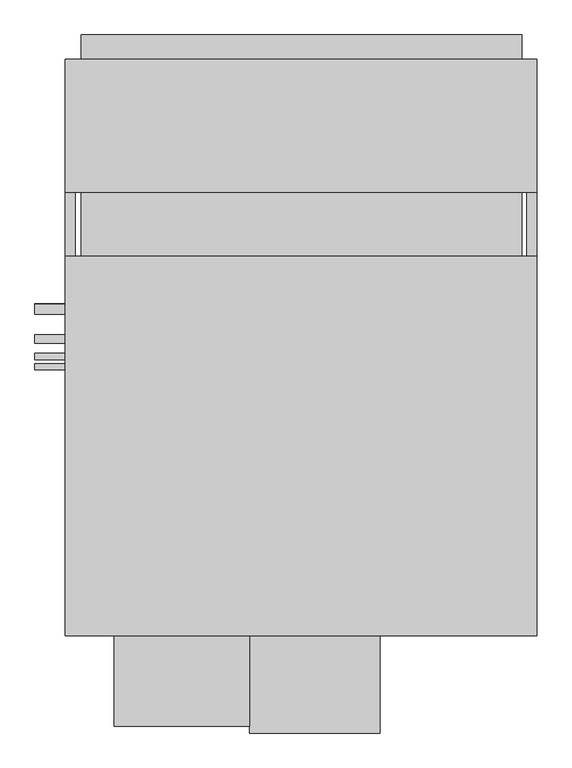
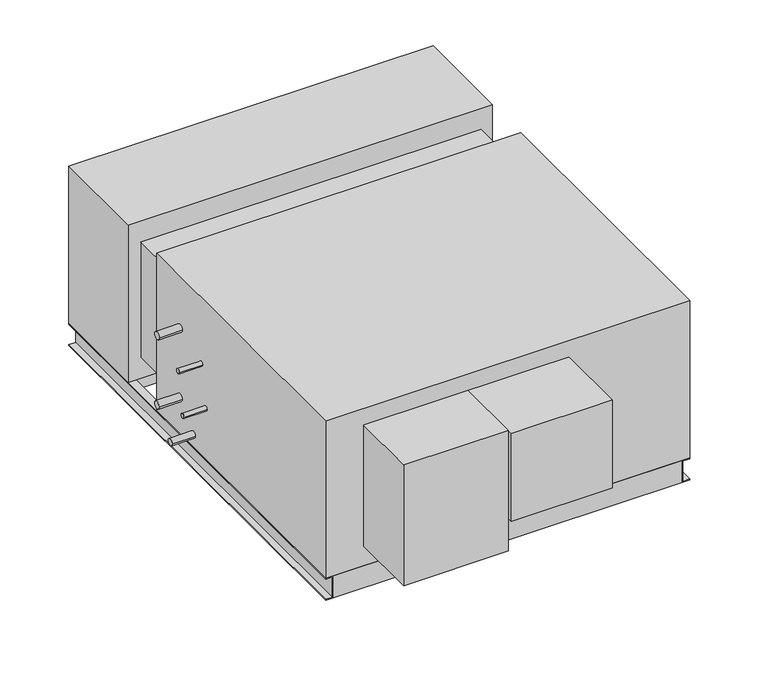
"""IFC4 building model written with IfcOpenShell, lengths in millimetres: proxy geometry, Horizontal_Direct_Drive_Blower_Coil_Unit_-_42DHA_-_CARRIER_-_4-Pipe_NFilterR_W-MixingBox_LH_2022 : Size 16 - 460v/60Hz/3Ph - 6/2 Coil."""

from ifc_helpers import new_model, si_unit, point, frame, frame_2d, origin, place, context, project, spatial, polyline, circle_curve, trimmed, segment, composite_curve, outline, extrude, source, transform, mapped, element, save


def mechanical_equipment_2bbc750a(model_context):
    return source(origin(), model_context, "Body", "SweptSolid", [
        extrude(outline(polyline([(88.9, 889.635), (88.9, 686.435), (-1025.525, 686.435), (-1025.525, 889.635), (88.9, 889.635)])), frame((0.0, 0.0, -607.06), z_axis=(0.0, 0.0, 1.0), x_axis=(1.0, 0.0, 0.0)), (0.0, 0.0, 1.0), 60.96),
        extrude(outline(polyline([(-1025.525, 1052.195), (88.9, 1052.195), (88.9, 991.235), (-1025.525, 991.235), (-1025.525, 1052.195)])), frame((0.0, 0.0, -279.4), z_axis=(0.0, 0.0, 1.0), x_axis=(1.0, 0.0, 0.0)), (0.0, 0.0, 1.0), 203.2),
        extrude(outline(polyline([(127.0, 991.235), (127.0, 654.05), (-1066.8, 654.05), (-1066.8, 991.235), (127.0, 991.235)])), frame((0.0, 0.0, -546.1), z_axis=(0.0, 0.0, 1.0), x_axis=(1.0, 0.0, 0.0)), (0.0, 0.0, 1.0), 546.1),
        extrude(outline(polyline([(101.6, -441.325), (101.6, -466.725), (-1041.4, -466.725), (-1041.4, -441.325), (101.6, -441.325)])), frame((0.0, 0.0, -622.3), z_axis=(0.0, 0.0, 1.0), x_axis=(1.0, 0.0, 0.0)), (0.0, 0.0, 1.0), 76.2),
        extrude(outline(polyline([(101.6, 991.235), (101.6, 965.835), (-1041.4, 965.835), (-1041.4, 991.235), (101.6, 991.235)])), frame((0.0, 0.0, -622.3), z_axis=(0.0, 0.0, 1.0), x_axis=(1.0, 0.0, 0.0)), (0.0, 0.0, 1.0), 76.2),
        extrude(outline(polyline([(-546.1, -1041.4), (-546.1, -1066.8), (-549.275, -1066.8), (-549.275, -1044.575), (-619.125, -1044.575), (-619.125, -1066.8), (-622.3, -1066.8), (-622.3, -1041.4), (-546.1, -1041.4)])), frame((0.0, -466.725, 0.0), z_axis=(0.0, 1.0, 0.0), x_axis=(0.0, 0.0, 1.0)), (0.0, 0.0, 1.0), 1457.96),
        extrude(outline(polyline([(-546.1, 101.6), (-622.3, 101.6), (-622.3, 127.0), (-619.125, 127.0), (-619.125, 104.775), (-549.275, 104.775), (-549.275, 127.0), (-546.1, 127.0), (-546.1, 101.6)])), frame((0.0, -466.725, 0.0), z_axis=(0.0, 1.0, 0.0), x_axis=(0.0, 0.0, 1.0)), (0.0, 0.0, 1.0), 1457.96),
        extrude(outline(composite_curve([segment(trimmed(circle_curve(frame_2d((358.775, -177.8)), 12.7), [point((371.475, -177.8))], [point((346.075, -177.8))], False, "CARTESIAN"), True, "CONTINUOUS"), segment(trimmed(circle_curve(frame_2d((358.775, -177.8)), 12.7), [point((346.075, -177.8))], [point((371.475, -177.8))], False, "CARTESIAN"), True, "CONTINUOUS")], self_intersect=False)), frame((-1143.0, 0.0, 0.0), z_axis=(1.0, 0.0, 0.0), x_axis=(0.0, 1.0, 0.0)), (0.0, 0.0, 1.0), 76.2),
        extrude(outline(composite_curve([segment(trimmed(circle_curve(frame_2d((359.642288, -419.1)), 12.7), [point((372.342288, -419.1))], [point((346.942288, -419.1))], False, "CARTESIAN"), True, "CONTINUOUS"), segment(trimmed(circle_curve(frame_2d((359.642288, -419.1)), 12.7), [point((346.942288, -419.1))], [point((372.342288, -419.1))], False, "CARTESIAN"), True, "CONTINUOUS")], self_intersect=False)), frame((-1143.0, 0.0, 0.0), z_axis=(1.0, 0.0, 0.0), x_axis=(0.0, 1.0, 0.0)), (0.0, 0.0, 1.0), 76.2),
        extrude(outline(composite_curve([segment(trimmed(circle_curve(frame_2d((283.442288, -501.65)), 11.1125), [point((294.554788, -501.65))], [point((272.329788, -501.65))], False, "CARTESIAN"), True, "CONTINUOUS"), segment(trimmed(circle_curve(frame_2d((283.442288, -501.65)), 11.1125), [point((272.329788, -501.65))], [point((294.554788, -501.65))], False, "CARTESIAN"), True, "CONTINUOUS")], self_intersect=False)), frame((-1143.0, 0.0, 0.0), z_axis=(1.0, 0.0, 0.0), x_axis=(0.0, 1.0, 0.0)), (0.0, 0.0, 1.0), 76.2),
        extrude(outline(composite_curve([segment(trimmed(circle_curve(frame_2d((238.992288, -228.6)), 7.9375), [point((246.929788, -228.6))], [point((231.054788, -228.6))], False, "CARTESIAN"), True, "CONTINUOUS"), segment(trimmed(circle_curve(frame_2d((238.992288, -228.6)), 7.9375), [point((231.054788, -228.6))], [point((246.929788, -228.6))], False, "CARTESIAN"), True, "CONTINUOUS")], self_intersect=False)), frame((-1143.0, 0.0, 0.0), z_axis=(1.0, 0.0, 0.0), x_axis=(0.0, 1.0, 0.0)), (0.0, 0.0, 1.0), 76.2),
        extrude(outline(composite_curve([segment(trimmed(circle_curve(frame_2d((213.592288, -368.5792556)), 7.9375), [point((221.529788, -368.5792556))], [point((205.654788, -368.5792556))], False, "CARTESIAN"), True, "CONTINUOUS"), segment(trimmed(circle_curve(frame_2d((213.592288, -368.5792556)), 7.9375), [point((205.654788, -368.5792556))], [point((221.529788, -368.5792556))], False, "CARTESIAN"), True, "CONTINUOUS")], self_intersect=False)), frame((-1143.0, 0.0, 0.0), z_axis=(1.0, 0.0, 0.0), x_axis=(0.0, 1.0, 0.0)), (0.0, 0.0, 1.0), 76.2),
        extrude(outline(polyline([(127.0, 492.125), (127.0, -466.725), (-1066.8, -466.725), (-1066.8, 492.125), (127.0, 492.125)])), frame((0.0, 0.0, -546.1), z_axis=(0.0, 0.0, 1.0), x_axis=(1.0, 0.0, 0.0)), (0.0, 0.0, 1.0), 546.1),
        extrude(outline(polyline([(-600.075, -695.325), (-942.975, -695.325), (-942.975, -466.725), (-600.075, -466.725), (-600.075, -695.325)])), frame((0.0, 0.0, -476.25), z_axis=(0.0, 0.0, 1.0), x_axis=(1.0, 0.0, 0.0)), (0.0, 0.0, 1.0), 419.1),
        extrude(outline(polyline([(-1025.525, 654.05), (88.9, 654.05), (88.9, 492.125), (-1025.525, 492.125), (-1025.525, 654.05)])), frame((0.0, 0.0, -473.075), z_axis=(0.0, 0.0, 1.0), x_axis=(1.0, 0.0, 0.0)), (0.0, 0.0, 1.0), 400.05),
        extrude(outline(polyline([(-269.875, -712.7875), (-600.075, -712.7875), (-600.075, -466.725), (-269.875, -466.725), (-269.875, -712.7875)])), frame((0.0, 0.0, -361.95), z_axis=(0.0, 0.0, 1.0), x_axis=(1.0, 0.0, 0.0)), (0.0, 0.0, 1.0), 304.8),
    ])


if __name__ == "__main__":
    model = new_model("IFC4")
    model_context = context("Model", 3, world=origin())
    ifc_project = project(units=[si_unit("LENGTHUNIT", "METRE", prefix="MILLI")], contexts=[model_context])
    site = spatial("IfcSite", under=ifc_project)
    building = spatial("IfcBuilding", under=site)
    placement = place(None, origin())
    mechanical_equipment_shape = mechanical_equipment_2bbc750a(model_context)
    element("IfcBuildingElementProxy", 1, Name="Horizontal_Direct_Drive_Blower_Coil_Unit_-_42DHA_-_CARRIER_-_4-Pipe_NFilterR_W-MixingBox_LH_2022 : Size 16 - 460v/60Hz/3Ph - 6/2 Coil", ObjectType="Horizontal_Direct_Drive_Blower_Coil_Unit_-_42DHA_-_CARRIER_-_4-Pipe_NFilterR_W-MixingBox_LH_2022 : Size 16 - 460v/60Hz/3Ph - 6/2 Coil", at=placement, inside=building, context=model_context, shape_type="MappedRepresentation", body=[
        mapped(mechanical_equipment_shape, transform((0.0, 0.0, 0.0), x_axis=(1.0, 0.0, 0.0), y_axis=(0.0, 1.0, 0.0), z_axis=(0.0, 0.0, 1.0))),
    ])
    save(model, "model.ifc")
